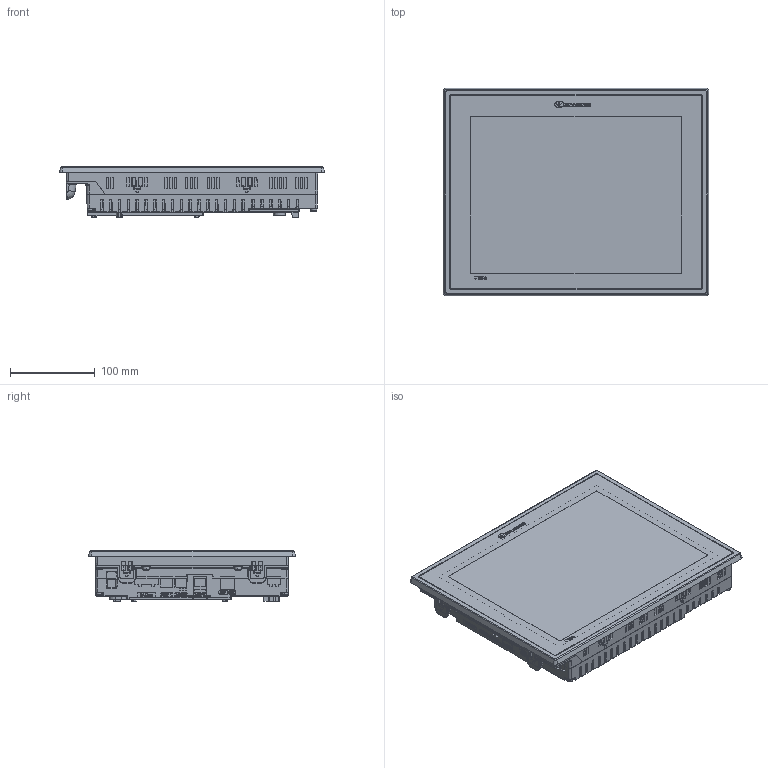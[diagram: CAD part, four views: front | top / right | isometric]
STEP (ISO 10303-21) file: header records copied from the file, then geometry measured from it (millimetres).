
FILE_DESCRIPTION (( 'STEP AP214' ), '1' );
FILE_NAME ('V1210.STEP', '2024-04-24T11:11:33', ( '' ), ( '' ), 'SwSTEP 2.0', 'SolidWorks 2022', '' );
FILE_SCHEMA (( 'AUTOMOTIVE_DESIGN' ));
Products named in the file (1): V1210
Bounding box: 313.1 x 244.59 x 59.15 mm (x, y, z)
Volume: 3222681.9 mm3; surface area: 370716 mm2
Topology: 1 solids, 10 shells, 5768 faces, 15192 edges, 9756 vertices
Faces by surface type: plane 3464, bspline 931, cylinder 884, cone 489
Entity records: 222888 total; most frequent: CARTESIAN_POINT 91561, ORIENTED_EDGE 30348, DIRECTION 21908, EDGE_CURVE 15174, VERTEX_POINT 9756, VECTOR 9474, LINE 9474, AXIS2_PLACEMENT_3D 6217
